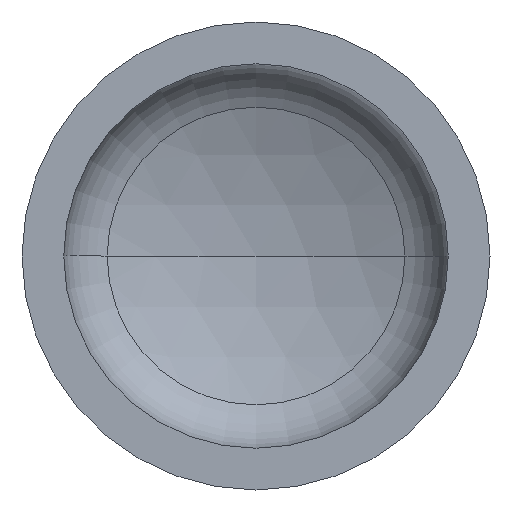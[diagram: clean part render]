
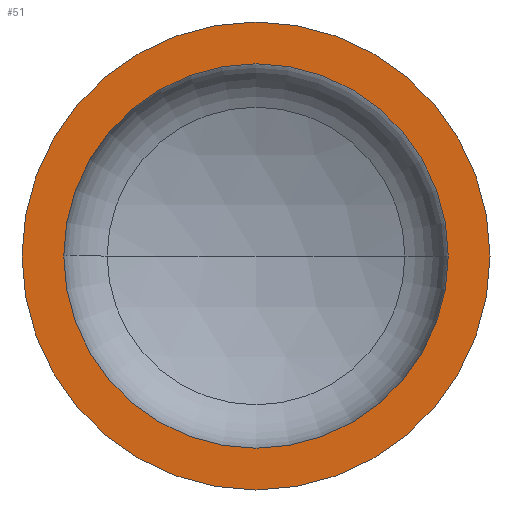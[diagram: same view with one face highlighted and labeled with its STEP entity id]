
A CAD part, front view. The second image highlights one B-rep face of the part: STEP entity #51.
In plain terms, the highlighted planar face has unit normal (0, -1, 0).
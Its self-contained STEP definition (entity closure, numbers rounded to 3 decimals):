
#13 = VERTEX_POINT ( 'NONE', #257 ) ;
#14 = EDGE_LOOP ( 'NONE', ( #133, #273 ) ) ;
#33 = ORIENTED_EDGE ( 'NONE', *, *, #85, .F. ) ;
#49 = VERTEX_POINT ( 'NONE', #283 ) ;
#51 = ADVANCED_FACE ( 'NONE', ( #266, #195 ), #290, .F. ) ;
#52 = AXIS2_PLACEMENT_3D ( 'NONE', #362, #367, #308 ) ;
#53 = AXIS2_PLACEMENT_3D ( 'NONE', #329, #344, #343 ) ;
#58 = VERTEX_POINT ( 'NONE', #355 ) ;
#59 = EDGE_LOOP ( 'NONE', ( #33, #74 ) ) ;
#63 = AXIS2_PLACEMENT_3D ( 'NONE', #245, #293, #350 ) ;
#74 = ORIENTED_EDGE ( 'NONE', *, *, #345, .F. ) ;
#80 = EDGE_CURVE ( 'NONE', #13, #58, #259, .T. ) ;
#85 = EDGE_CURVE ( 'NONE', #49, #131, #187, .T. ) ;
#107 = AXIS2_PLACEMENT_3D ( 'NONE', #179, #395, #326 ) ;
#131 = VERTEX_POINT ( 'NONE', #212 ) ;
#133 = ORIENTED_EDGE ( 'NONE', *, *, #357, .T. ) ;
#139 = CARTESIAN_POINT ( 'NONE',  ( 0., 0., 0. ) ) ;
#154 = DIRECTION ( 'NONE',  ( 1., 0., 0. ) ) ;
#179 = CARTESIAN_POINT ( 'NONE',  ( 0., 0., 0. ) ) ;
#187 = CIRCLE ( 'NONE', #52, 534. ) ;
#195 = FACE_OUTER_BOUND ( 'NONE', #14, .T. ) ;
#212 = CARTESIAN_POINT ( 'NONE',  ( -534., 0., 0. ) ) ;
#237 = AXIS2_PLACEMENT_3D ( 'NONE', #139, #360, #154 ) ;
#245 = CARTESIAN_POINT ( 'NONE',  ( -650., 0., 0. ) ) ;
#257 = CARTESIAN_POINT ( 'NONE',  ( -650., 0., 0. ) ) ;
#259 = CIRCLE ( 'NONE', #53, 650. ) ;
#266 = FACE_BOUND ( 'NONE', #59, .T. ) ;
#273 = ORIENTED_EDGE ( 'NONE', *, *, #80, .T. ) ;
#274 = CIRCLE ( 'NONE', #107, 534. ) ;
#283 = CARTESIAN_POINT ( 'NONE',  ( 534., 0., 0. ) ) ;
#290 = PLANE ( 'NONE',  #63 ) ;
#293 = DIRECTION ( 'NONE',  ( 0., 1., 0. ) ) ;
#308 = DIRECTION ( 'NONE',  ( 1., 0., 0. ) ) ;
#326 = DIRECTION ( 'NONE',  ( 1., 0., 0. ) ) ;
#329 = CARTESIAN_POINT ( 'NONE',  ( 0., 0., 0. ) ) ;
#343 = DIRECTION ( 'NONE',  ( 1., 0., 0. ) ) ;
#344 = DIRECTION ( 'NONE',  ( 0., -1., 0. ) ) ;
#345 = EDGE_CURVE ( 'NONE', #131, #49, #274, .T. ) ;
#350 = DIRECTION ( 'NONE',  ( -1., 0., 0. ) ) ;
#355 = CARTESIAN_POINT ( 'NONE',  ( 650., 0., 0. ) ) ;
#357 = EDGE_CURVE ( 'NONE', #58, #13, #389, .T. ) ;
#360 = DIRECTION ( 'NONE',  ( 0., -1., 0. ) ) ;
#362 = CARTESIAN_POINT ( 'NONE',  ( 0., 0., 0. ) ) ;
#367 = DIRECTION ( 'NONE',  ( 0., -1., 0. ) ) ;
#389 = CIRCLE ( 'NONE', #237, 650. ) ;
#395 = DIRECTION ( 'NONE',  ( 0., -1., 0. ) ) ;
